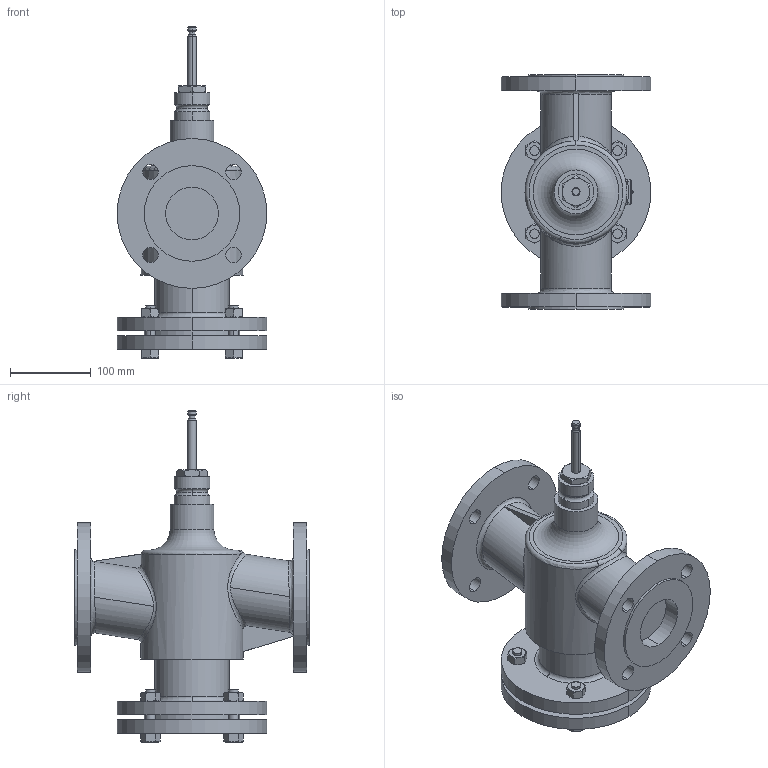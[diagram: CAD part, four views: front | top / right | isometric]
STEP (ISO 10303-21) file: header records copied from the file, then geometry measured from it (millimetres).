
FILE_DESCRIPTION(/* description */ (''),/* implementation_level */ '2;1');
FILE_NAME(/* name */ 'VVF43_DN65.stp',/* time_stamp */ '2014-03-14T11:52:59+01:00',/* author */ (''),/* organization */ (''),/* preprocessor_version */ 'ST-DEVELOPER v11',/* originating_system */ 'SIEMENS UGS NX 6.0',/* authorisation */ '');
FILE_SCHEMA (('AUTOMOTIVE_DESIGN { 1 0 10303 214 1 1 1 1 }'));
Length unit declared in the file: millimetre
Products named in the file (1): rontCBEBexhw
Bounding box: 185 x 290 x 410 mm (x, y, z)
Volume: 4806486.2 mm3; surface area: 384160.4 mm2
Topology: 1 solids, 2 shells, 263 faces, 659 edges, 432 vertices
Faces by surface type: plane 108, cylinder 91, cone 42, torus 11, bspline 9, sphere 2
Full cylindrical faces by diameter (mm): 54 x1
Entity records: 9915 total; most frequent: CARTESIAN_POINT 3895, ORIENTED_EDGE 1300, DIRECTION 1215, EDGE_CURVE 650, AXIS2_PLACEMENT_3D 497, VERTEX_POINT 429, EDGE_LOOP 325, ADVANCED_FACE 263
